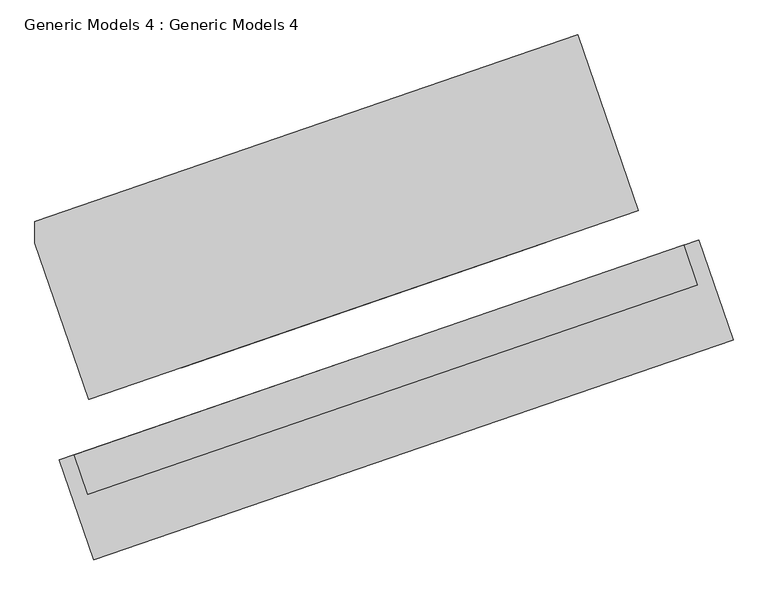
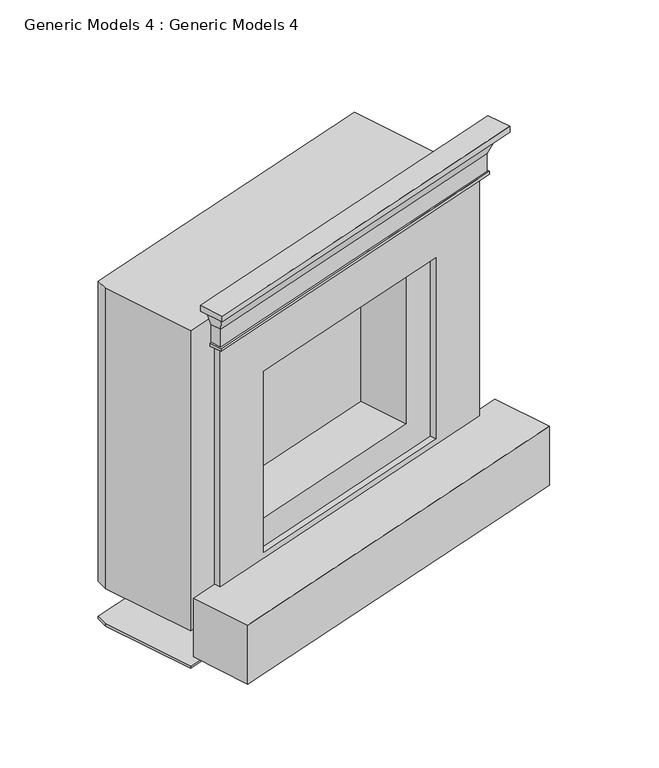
"""IFC4 building model written with IfcOpenShell, lengths in millimetres: proxy geometry, Generic Models 4 : Generic Models 4."""

import ifcopenshell
import ifcopenshell.guid

model = None  # the IFC model being written
_history = None  # IfcOwnerHistory: only IFC2X3 demands one
_inside = {}  # id of a spatial element -> (the spatial element, [elements in it])
_under = {}  # id of a project, library or spatial element -> (it, [spatial elements below it])
_declared = {}  # id of a project -> (the project, [libraries it declares])
_typed = {}  # id of a type object -> (the type object, [elements of that type])
_made_of = {}  # id of a material, layer set ... -> (it, [elements and type objects made of it])


def new_model(schema):
    """Start an empty IFC model of exactly this schema.

    Asked for "IFC4X3", IfcOpenShell would pick the latest addendum, in which some entities
    have other attributes; the version numbers below select the first issue.
    IFC2X3 requires an IfcOwnerHistory on every rooted entity: one is made here for all.
    """
    global model, _history
    if schema == "IFC4X3":
        model = ifcopenshell.file(schema_version=(4, 3, 0, 0))
    else:
        model = ifcopenshell.file(schema=schema)
    _inside.clear()
    _under.clear()
    _declared.clear()
    _typed.clear()
    _made_of.clear()
    _history = None
    if model.schema == "IFC2X3":
        org = make("IfcOrganization", Name="unknown")
        user = make(
            "IfcPersonAndOrganization",
            ThePerson=make("IfcPerson", FamilyName="unknown"),
            TheOrganization=org,
        )
        app = make(
            "IfcApplication",
            ApplicationDeveloper=org,
            Version="unknown",
            ApplicationFullName="unknown",
            ApplicationIdentifier="unknown",
        )
        _history = make(
            "IfcOwnerHistory",
            OwningUser=user,
            OwningApplication=app,
            ChangeAction="ADDED",
            CreationDate=0,
        )
    return model


def make(cls, **values):
    """One entity of the class cls with the attributes given. An attribute that is None is left unset."""
    return model.create_entity(
        cls, **{name: value for name, value in values.items() if value is not None}
    )


def rooted(cls, **values):
    """An entity with a GlobalId (a new one), such as an element, a storey or a relation."""
    return make(cls, GlobalId=ifcopenshell.guid.new(), OwnerHistory=_history, **values)


def si_unit(unit_type, name, prefix=None):
    """IfcSIUnit, for example si_unit("LENGTHUNIT", "METRE", prefix="MILLI")."""
    return make("IfcSIUnit", UnitType=unit_type, Prefix=prefix, Name=name)


def assignment(units):
    """IfcUnitAssignment: the units of a project."""
    return None if units is None else make("IfcUnitAssignment", Units=units)


def point(xyz):
    """IfcCartesianPoint."""
    return None if xyz is None else make("IfcCartesianPoint", Coordinates=xyz)


def direction(xyz):
    """IfcDirection."""
    return None if xyz is None else make("IfcDirection", DirectionRatios=xyz)


def frame(location, z_axis=None, x_axis=None):
    """IfcAxis2Placement3D, a coordinate frame: its origin and axes. An axis left out is left unset."""
    return make(
        "IfcAxis2Placement3D",
        Location=point(location),
        Axis=direction(z_axis),
        RefDirection=direction(x_axis),
    )


def origin():
    """The frame at (0, 0, 0) with its axes left unset."""
    return frame((0.0, 0.0, 0.0))


def origin_with_axes():
    """The frame at (0, 0, 0) with the z axis (0, 0, 1) and the x axis (1, 0, 0) written out."""
    return frame((0.0, 0.0, 0.0), z_axis=(0.0, 0.0, 1.0), x_axis=(1.0, 0.0, 0.0))


def place(relative_to, where):
    """IfcLocalPlacement: puts the frame where relative to a parent placement (None: the world)."""
    return make(
        "IfcLocalPlacement", PlacementRelTo=relative_to, RelativePlacement=where
    )


def context(
    kind, dimensions, precision=None, world=None, true_north=None, identifier=None
):
    """IfcGeometricRepresentationContext, for example the 3D "Model" context."""
    return make(
        "IfcGeometricRepresentationContext",
        ContextIdentifier=identifier,
        ContextType=kind,
        CoordinateSpaceDimension=dimensions,
        Precision=precision,
        WorldCoordinateSystem=world,
        TrueNorth=true_north,
    )


def project(units=None, contexts=None):
    """IfcProject with its units and contexts."""
    return rooted(
        "IfcProject",
        Name="project",
        RepresentationContexts=contexts,
        UnitsInContext=assignment(units),
    )


def spatial(cls, under=None, at=None, **own):
    """A site, building, storey or space (cls), placed at a placement, below another one or the project."""
    s = rooted(cls, ObjectPlacement=at, **own)
    if under is not None:
        _under.setdefault(under.id(), (under, []))[1].append(s)
    return s


def polyline(points):
    """IfcPolyline through the points."""
    return make("IfcPolyline", Points=[point(p) for p in points])


def outline(outer, holes=None, kind="AREA"):
    """IfcArbitraryClosedProfileDef: a profile drawn as a closed curve; with holes, ...WithVoids."""
    if holes is None:
        return make("IfcArbitraryClosedProfileDef", ProfileType=kind, OuterCurve=outer)
    return make(
        "IfcArbitraryProfileDefWithVoids",
        ProfileType=kind,
        OuterCurve=outer,
        InnerCurves=holes,
    )


def extrude(swept, where, along, depth):
    """IfcExtrudedAreaSolid: the profile swept, set in the frame where, extruded along a direction by depth."""
    return make(
        "IfcExtrudedAreaSolid",
        SweptArea=swept,
        Position=where,
        ExtrudedDirection=direction(along),
        Depth=depth,
    )


def faces_of(points, faces, orient=None, outer=None):
    """IfcFace entities. A face is a list of loops; a loop is a list of indices into points, from 0.

    orient and outer hold one flag for each loop. By default every Orientation is true, the
    first loop of a face is its IfcFaceOuterBound and the others are IfcFaceBound.
    """
    made = []
    for i, loops in enumerate(faces):
        bounds = []
        for j, loop in enumerate(loops):
            is_outer = j == 0 if outer is None else outer[i][j]
            bounds.append(
                make(
                    "IfcFaceOuterBound" if is_outer else "IfcFaceBound",
                    Bound=make("IfcPolyLoop", Polygon=[points[k] for k in loop]),
                    Orientation=True if orient is None else orient[i][j],
                )
            )
        made.append(make("IfcFace", Bounds=bounds))
    return made


def faceted_brep(points, faces, orient=None, outer=None, voids=None):
    """IfcFacetedBrep: a solid bounded by flat faces; with voids (closed shells), ...WithVoids."""
    shared = [point(p) for p in points]
    hull = make("IfcClosedShell", CfsFaces=faces_of(shared, faces, orient, outer))
    if voids is None:
        return make("IfcFacetedBrep", Outer=hull)
    return make(
        "IfcFacetedBrepWithVoids",
        Outer=hull,
        Voids=[
            make(cls, CfsFaces=faces_of(shared, fs, o, b)) for cls, fs, o, b in voids
        ],
    )


def shape(context_of_items, identifier, shape_type, items):
    """IfcShapeRepresentation: the items that make up one representation, for example the "Body"."""
    return make(
        "IfcShapeRepresentation",
        ContextOfItems=context_of_items,
        RepresentationIdentifier=identifier,
        RepresentationType=shape_type,
        Items=items,
    )


def source(mapping_origin, context_of_items, identifier, shape_type, items):
    """IfcRepresentationMap: a shape defined once, which mapped items show again and again."""
    return make(
        "IfcRepresentationMap",
        MappingOrigin=mapping_origin,
        MappedRepresentation=shape(context_of_items, identifier, shape_type, items),
    )


def transform(
    local_origin,
    x_axis=None,
    y_axis=None,
    z_axis=None,
    scale=None,
    scale2=None,
    scale3=None,
    uniform=True,
):
    """IfcCartesianTransformationOperator3D, or its non-uniform kind. x_axis, y_axis, z_axis: its Axis1, 2, 3."""
    if uniform:
        return make(
            "IfcCartesianTransformationOperator3D",
            Axis1=direction(x_axis),
            Axis2=direction(y_axis),
            LocalOrigin=point(local_origin),
            Scale=scale,
            Axis3=direction(z_axis),
        )
    return make(
        "IfcCartesianTransformationOperator3DnonUniform",
        Axis1=direction(x_axis),
        Axis2=direction(y_axis),
        LocalOrigin=point(local_origin),
        Scale=scale,
        Axis3=direction(z_axis),
        Scale2=scale2,
        Scale3=scale3,
    )


def mapped(mapping_source, mapping_target):
    """IfcMappedItem: shows the shape of a source again, moved by a transform."""
    return make(
        "IfcMappedItem", MappingSource=mapping_source, MappingTarget=mapping_target
    )


def made_of(thing, what):
    """Note that an element or type object is made of a material, layer set ...; save() writes the relation."""
    if what is not None:
        _made_of.setdefault(what.id(), (what, []))[1].append(thing)
    return thing


def element(
    cls,
    number,
    at=None,
    inside=None,
    cuts=None,
    type_object=None,
    material=None,
    context=None,
    identifier="Body",
    shape_type=None,
    held_by="IfcProductDefinitionShape",
    body=None,
    shapes=None,
    **own,
):
    """One element of the class cls, such as IfcWall. Its Tag is "e" and its number.

    at: its placement. inside: the storey or other place that contains it. cuts: it is an
    opening in that element (IfcRelVoidsElement). A single representation is given by context,
    identifier, shape_type and body (its items); several are given by shapes. held_by: the class
    of the entity that holds the representations. save() writes the other relations.
    """
    e = rooted(cls, Tag="e%d" % number, ObjectPlacement=at, **own)
    if body is not None:
        shapes = [shape(context, identifier, shape_type, body)]
    if shapes is not None:
        e.Representation = make(held_by, Representations=shapes)
    if inside is not None:
        _inside.setdefault(inside.id(), (inside, []))[1].append(e)
    if cuts is not None:
        rooted(
            "IfcRelVoidsElement", RelatingBuildingElement=cuts, RelatedOpeningElement=e
        )
    if type_object is not None:
        _typed.setdefault(type_object.id(), (type_object, []))[1].append(e)
    return made_of(e, material)


def aggregate(whole, parts):
    """IfcRelAggregates: a whole, such as a stair, and the parts it consists of."""
    return rooted("IfcRelAggregates", RelatingObject=whole, RelatedObjects=parts)


def save(model, path):
    """Write the relations noted so far, then the file.

    IfcRelAggregates (storeys below a building ...), IfcRelContainedInSpatialStructure (elements
    in a storey), IfcRelDefinesByType, IfcRelAssociatesMaterial and IfcRelDeclares: one each for
    every whole, place, type object, material and project.
    """
    for whole, parts in _under.values():
        aggregate(whole, parts)
    for where, things in _inside.values():
        rooted(
            "IfcRelContainedInSpatialStructure",
            RelatedElements=things,
            RelatingStructure=where,
        )
    for kind, things in _typed.values():
        rooted("IfcRelDefinesByType", RelatedObjects=things, RelatingType=kind)
    for what, things in _made_of.values():
        rooted("IfcRelAssociatesMaterial", RelatedObjects=things, RelatingMaterial=what)
    for by, libraries in _declared.values():
        rooted("IfcRelDeclares", RelatingContext=by, RelatedDefinitions=libraries)
    model.write(path)


def generic_models_4_generic_models_4_8fbb5af6(model_context):
    return source(origin(), model_context, "Body", "SolidModel", [
        extrude(outline(polyline([(-4782.5030259, 8554.1145848), (-3317.256209, 9057.7931782), (-3284.2281045, 8961.7114197), (-4749.4749214, 8458.0328263), (-4782.5030259, 8554.1145848)])), frame((0.0, 0.0, 1473.2), z_axis=(0.0, 0.0, 1.0), x_axis=(1.0, 0.0, 0.0)), (0.0, 0.0, 1.0), 25.4),
        faceted_brep([(-4758.4825863, 8562.371611, 1473.2), (-4710.4417071, 8578.8856632, 1473.2), (-4710.4417071, 8578.8856632, 1295.4), (-4734.4621467, 8570.6286371, 1295.4), (-4734.4621467, 8570.6286371, 1308.1), (-4728.4570368, 8572.6928936, 1308.1), (-4728.4570368, 8572.6928936, 1384.3), (-4733.7115079, 8490.3102921, 1473.2), (-3316.5055702, 8977.4748332, 1473.2), (-3341.2766486, 9049.536152, 1473.2), (-3389.3175278, 9033.0220998, 1473.2), (-3381.0605017, 9009.0016602, 1473.2), (-4702.1846809, 8554.8652236, 1473.2), (-4702.1846809, 8554.8652236, 1295.4), (-3381.0605017, 9009.0016602, 1295.4), (-3389.3175278, 9033.0220998, 1295.4), (-3365.2970882, 9041.2791259, 1295.4), (-3348.783036, 8993.2382467, 1295.4), (-4717.9480944, 8522.5877578, 1295.4), (-4717.9480944, 8522.5877578, 1308.1), (-3348.783036, 8993.2382467, 1308.1), (-3365.2970882, 9041.2791259, 1308.1), (-3371.3021981, 9039.2148694, 1308.1), (-3356.8524024, 8997.1791001, 1308.1), (-4714.0072411, 8530.6571243, 1308.1), (-4714.0072411, 8530.6571243, 1384.3), (-3356.8524024, 8997.1791001, 1384.3), (-3371.3021981, 9039.2148694, 1384.3)], [[[0, 1, 2, 3, 4, 5, 6]], [[1, 0, 7, 8, 9, 10, 11, 12]], [[2, 1, 12, 13]], [[3, 2, 13, 14, 15, 16, 17, 18]], [[4, 3, 18, 19]], [[5, 4, 19, 20, 21, 22, 23, 24]], [[6, 5, 24, 25]], [[0, 6, 25, 7]], [[13, 12, 11, 14]], [[19, 18, 17, 20]], [[25, 24, 23, 26]], [[7, 25, 26, 8]], [[9, 27, 22, 21, 16, 15, 10]], [[14, 11, 10, 15]], [[20, 17, 16, 21]], [[26, 23, 22, 27]], [[8, 26, 27, 9]]]),
        extrude(outline(polyline([(-3389.3175278, 9033.0220998), (-3381.0605017, 9009.0016602), (-4702.1846809, 8554.8652236), (-4710.4417071, 8578.8856632), (-3389.3175278, 9033.0220998)])), frame((0.0, 0.0, 1295.4), z_axis=(0.0, 0.0, 1.0), x_axis=(1.0, 0.0, 0.0)), (0.0, 0.0, 1.0), 177.8),
        faceted_brep([(-3426.4741454, 9141.1140781, -162.4210938), (-4747.5983246, 8686.9776415, -162.4210938), (-4876.8, 9062.8370609, -162.4210938), (-4876.8, 9115.279311, -162.4210938), (-3571.7978051, 9563.8738155, -162.4210938), (-3426.4741454, 9141.1140781, -152.4), (-4747.5983246, 8686.9776415, -152.4), (-4876.8, 9062.8370609, -152.4), (-4876.8, 9115.279311, -152.4), (-3571.7978051, 9563.8738155, -152.4)], [[[0, 1, 2, 3, 4]], [[1, 0, 5, 6]], [[2, 1, 6, 7]], [[3, 2, 7, 8]], [[4, 3, 8, 9]], [[0, 4, 9, 5]], [[6, 5, 9, 8, 7]]]),
        faceted_brep([(-3426.4741454, 9141.1140781, 1295.4), (-3571.7978051, 9563.8738155, 1295.4), (-4876.8, 9115.279311, 1295.4), (-4876.8, 9062.8370609, 1295.4), (-4747.5983246, 8686.9776415, 1295.4), (-4594.3554262, 8963.925804, 279.4), (-3717.60938, 9265.3072573, 279.4), (-3717.60938, 9265.3072573, 1060.45), (-4594.3554262, 8963.925804, 1060.45), (-4525.4092581, 8763.3551331, 1060.45), (-4525.4092581, 8763.3551331, 279.4), (-3648.6632119, 9064.7365865, 1060.45), (-3648.6632119, 9064.7365865, 279.4), (-3426.4741454, 9141.1140781, 0.0), (-4747.5983246, 8686.9776415, 0.0), (-4876.8, 9062.8370609, 0.0), (-4876.8, 9115.279311, 0.0), (-3571.7978051, 9563.8738155, 0.0)], [[[0, 1, 2, 3, 4]], [[5, 6, 7, 8]], [[9, 10, 5, 8]], [[11, 9, 8, 7]], [[12, 11, 7, 6]], [[10, 12, 6, 5]], [[13, 14, 15, 16, 17]], [[0, 4, 14, 13], [10, 9, 11, 12]], [[4, 3, 15, 14]], [[3, 2, 16, 15]], [[2, 1, 17, 16]], [[1, 0, 13, 17]]]),
        extrude(outline(polyline([(1397.0, -234.95), (0.0, -234.95), (0.0, 806.45), (1397.0, 806.45), (1397.0, -234.95)]), holes=[polyline([(234.95, 0.0), (1162.05, 0.0), (1162.05, 781.05), (234.95, 781.05), (234.95, 0.0)])]), frame((-4702.1846809, 8554.8652236, 1060.45), z_axis=(-0.325079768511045, 0.9456865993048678, 0.0), x_axis=(0.9456865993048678, 0.325079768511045, 0.0)), (0.0, 0.0, 1.0), 25.4),
        extrude(outline(polyline([(-3281.2137633, 9070.1827689), (-3198.6435021, 8829.9783726), (-4735.951638, 8301.5287009), (-4818.5218992, 8541.7330972), (-3281.2137633, 9070.1827689)])), origin_with_axes(), (0.0, 0.0, 1.0), 254.0),
    ])


if __name__ == "__main__":
    model = new_model("IFC4")
    model_context = context("Model", 3, world=origin())
    ifc_project = project(units=[si_unit("LENGTHUNIT", "METRE", prefix="MILLI")], contexts=[model_context])
    site = spatial("IfcSite", under=ifc_project)
    building = spatial("IfcBuilding", under=site)
    placement = place(None, origin())
    generic_models_4_generic_models_4_shape = generic_models_4_generic_models_4_8fbb5af6(model_context)
    element("IfcBuildingElementProxy", 1, Name="Generic Models 4 : Generic Models 4", ObjectType="Generic Models 4 : Generic Models 4", at=placement, inside=building, context=model_context, shape_type="MappedRepresentation", body=[
        mapped(generic_models_4_generic_models_4_shape, transform((0.0, 0.0, 0.0), x_axis=(1.0, 0.0, 0.0), y_axis=(0.0, 1.0, 0.0), z_axis=(0.0, 0.0, 1.0))),
    ])
    save(model, "model.ifc")
